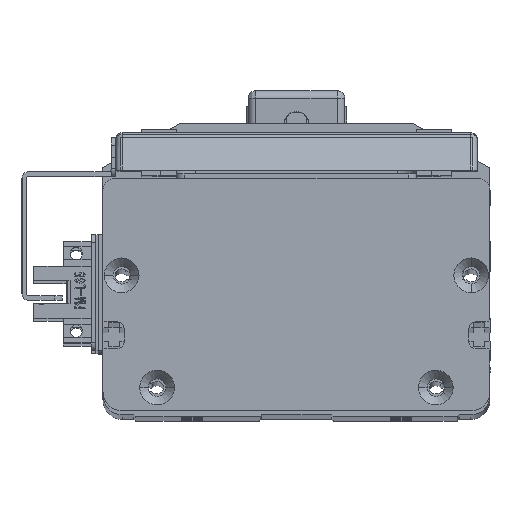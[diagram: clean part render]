
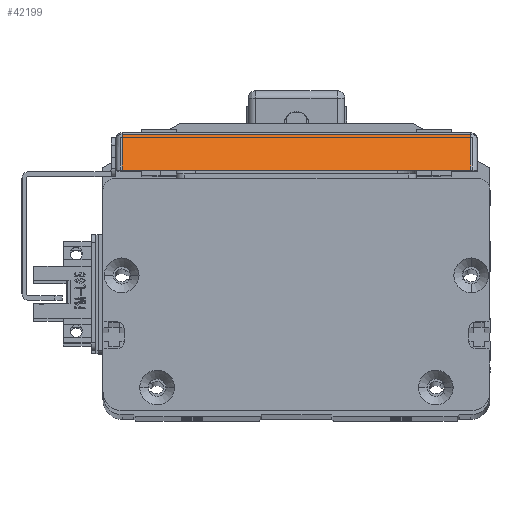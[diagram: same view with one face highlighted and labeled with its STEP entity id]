
A CAD part, top view. The second image highlights one B-rep face of the part: STEP entity #42199.
In plain terms, the highlighted planar face has unit normal (0, 0.707, 0.707) as drawn and (-0.707, 0, -0.707) by its records, which use the part's own axes.
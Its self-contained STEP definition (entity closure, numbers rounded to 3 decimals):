
#473 = DIRECTION ( 'NONE',  ( -0.707, 0., 0.707 ) ) ;
#1856 = ORIENTED_EDGE ( 'NONE', *, *, #55992, .T. ) ;
#1869 = VERTEX_POINT ( 'NONE', #58380 ) ;
#3968 = CARTESIAN_POINT ( 'NONE',  ( -68., 1.7, 5.6 ) ) ;
#4348 = FACE_OUTER_BOUND ( 'NONE', #64262, .T. ) ;
#5445 = VERTEX_POINT ( 'NONE', #66170 ) ;
#5532 = CARTESIAN_POINT ( 'NONE',  ( -68., 93.4, 5.6 ) ) ;
#8119 = DIRECTION ( 'NONE',  ( 0.707, 0., -0.707 ) ) ;
#11180 = EDGE_CURVE ( 'NONE', #39214, #1869, #66361, .T. ) ;
#11317 = EDGE_CURVE ( 'NONE', #1869, #17055, #68045, .T. ) ;
#17040 = CARTESIAN_POINT ( 'NONE',  ( -66.5, 93.4, 4.1 ) ) ;
#17055 = VERTEX_POINT ( 'NONE', #65163 ) ;
#28733 = LINE ( 'NONE', #44251, #41983 ) ;
#30087 = VECTOR ( 'NONE', #56889, 1000. ) ;
#34607 = AXIS2_PLACEMENT_3D ( 'NONE', #5532, #63536, #473 ) ;
#34860 = CARTESIAN_POINT ( 'NONE',  ( -57.298, 93.4, -5.102 ) ) ;
#36722 = ORIENTED_EDGE ( 'NONE', *, *, #11180, .T. ) ;
#37307 = PLANE ( 'NONE',  #34607 ) ;
#39214 = VERTEX_POINT ( 'NONE', #42455 ) ;
#40222 = ORIENTED_EDGE ( 'NONE', *, *, #53608, .T. ) ;
#41983 = VECTOR ( 'NONE', #8119, 1000. ) ;
#42199 = ADVANCED_FACE ( 'NONE', ( #4348 ), #37307, .T. ) ;
#42455 = CARTESIAN_POINT ( 'NONE',  ( -57.298, 1.7, -5.102 ) ) ;
#43805 = LINE ( 'NONE', #34860, #43890 ) ;
#43890 = VECTOR ( 'NONE', #56023, 1000. ) ;
#44251 = CARTESIAN_POINT ( 'NONE',  ( -68., 91.7, 5.6 ) ) ;
#45795 = VECTOR ( 'NONE', #57810, 1000. ) ;
#53608 = EDGE_CURVE ( 'NONE', #5445, #39214, #43805, .T. ) ;
#55992 = EDGE_CURVE ( 'NONE', #17055, #5445, #28733, .T. ) ;
#56023 = DIRECTION ( 'NONE',  ( 0., -1., 0. ) ) ;
#56889 = DIRECTION ( 'NONE',  ( -0.707, 0., 0.707 ) ) ;
#57454 = ORIENTED_EDGE ( 'NONE', *, *, #11317, .T. ) ;
#57810 = DIRECTION ( 'NONE',  ( 0., 1., 0. ) ) ;
#58380 = CARTESIAN_POINT ( 'NONE',  ( -66.5, 1.7, 4.1 ) ) ;
#63536 = DIRECTION ( 'NONE',  ( -0.707, 0., -0.707 ) ) ;
#64262 = EDGE_LOOP ( 'NONE', ( #36722, #57454, #1856, #40222 ) ) ;
#65163 = CARTESIAN_POINT ( 'NONE',  ( -66.5, 91.7, 4.1 ) ) ;
#66170 = CARTESIAN_POINT ( 'NONE',  ( -57.298, 91.7, -5.102 ) ) ;
#66361 = LINE ( 'NONE', #3968, #30087 ) ;
#68045 = LINE ( 'NONE', #17040, #45795 ) ;
